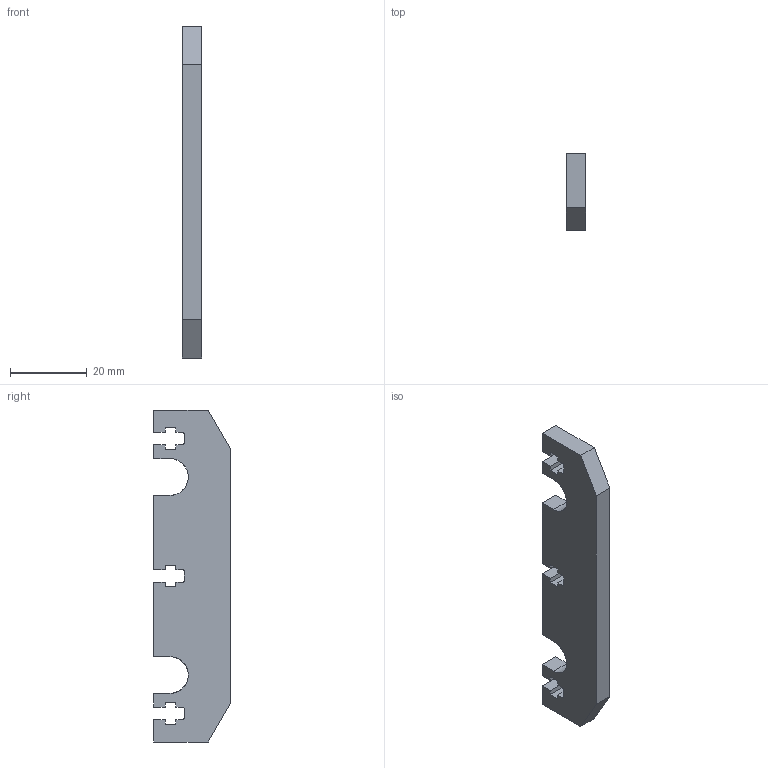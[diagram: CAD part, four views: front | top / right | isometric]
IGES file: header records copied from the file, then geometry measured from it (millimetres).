
Start section: SolidWorks IGES file using analytic representation for surfaces
Global section: file name: C:\Documents and Settings\Administrator\Desktop\coreXY\CoreXY EVT1\20110623\corexy1_xshaftretainer.IGS; native system: SolidWorks 2009; preprocessor: SolidWorks 2009; author: Administrator; date: 120423.190310; units: millimetre
Bounding box: 5 x 20 x 86.55 mm (x, y, z)
Surface area: 4318.9 mm2 (no closed solid volume)
Topology: 0 solids, 0 shells, 58 faces, 432 edges, 432 vertices
Faces by surface type: bspline 50, revolution 8
